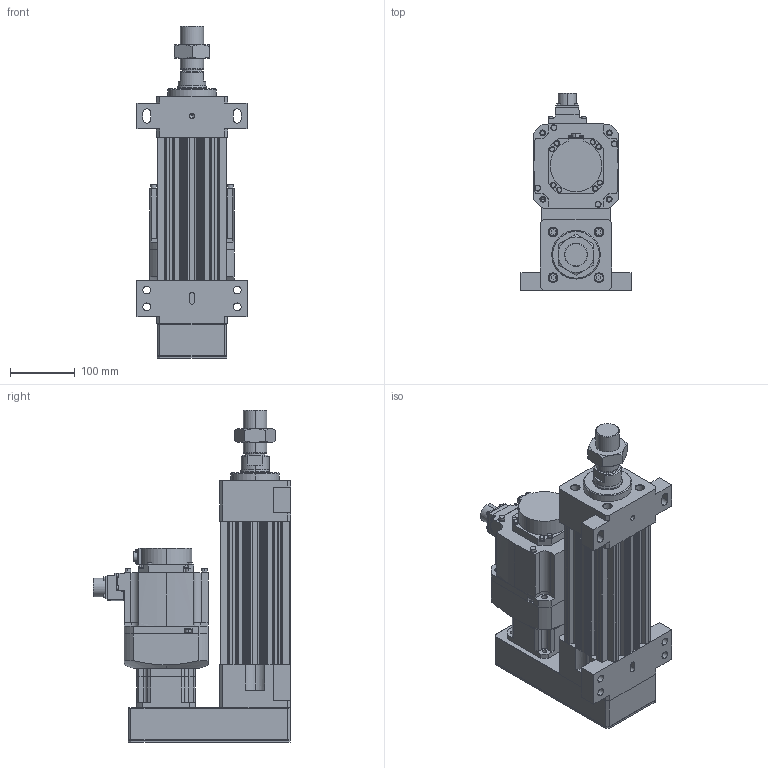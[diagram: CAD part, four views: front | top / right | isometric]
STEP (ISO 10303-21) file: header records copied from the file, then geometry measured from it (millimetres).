
FILE_DESCRIPTION (( 'STEP AP203' ), '1' );
FILE_NAME ('HES110NS(HS)-P050-W010G00-M-FFB.STEP', '2023-01-25T09:52:14', ( 'tms' ), ( '' ), 'SwSTEP 2.0', 'SolidWorks 2013', '' );
FILE_SCHEMA (( 'CONFIG_CONTROL_DESIGN' ));
Length unit declared in the file: millimetre
Products named in the file (8): P0401301004; HES110NS(HS)-P050-W010G00-M-FFB; AB090-003[HG-SR102B]; HES110 ROD M ST050; M36X1.5P; HES110-P050-G090-FFB; HG-SR102; AB0901
Assembly tree (7 placements, depth 3):
  HES110NS(HS)-P050-W010G00-M-FFB
    HES110-P050-G090-FFB
    HES110 ROD M ST050
    AB090-003[HG-SR102B]
      AB0901
      P0401301004
    HG-SR102
    M36X1.5P
Bounding box: 170 x 304.99 x 513 mm (x, y, z)
Volume: 5927779.7 mm3; surface area: 680991.3 mm2
Topology: 4 solids, 11 shells, 1083 faces, 2775 edges, 1806 vertices
Faces by surface type: cylinder 501, plane 500, cone 70, bspline 8, torus 4
Entity records: 34904 total; most frequent: CARTESIAN_POINT 6854, DIRECTION 5982, ORIENTED_EDGE 5502, EDGE_CURVE 2761, AXIS2_PLACEMENT_3D 2205, VERTEX_POINT 1806, LINE 1572, VECTOR 1572
